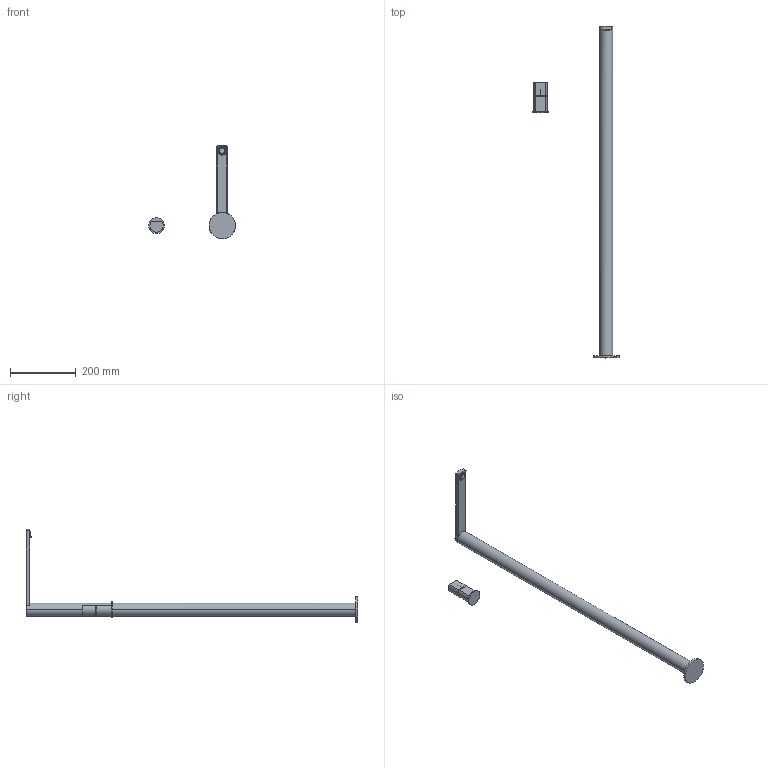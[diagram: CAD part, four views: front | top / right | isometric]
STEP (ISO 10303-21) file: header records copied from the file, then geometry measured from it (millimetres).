
FILE_DESCRIPTION((''),'2;1');
FILE_NAME('89069B21_SW0001','2020-06-18T17:02:05',('carloff'),(''),'CREO PARAMETRIC BY PTC INC, 2018100','CREO PARAMETRIC BY PTC INC, 2018100','');
FILE_SCHEMA(('CONFIG_CONTROL_DESIGN'));
Products named in the file (1): 89069B21_SW0001
Bounding box: 264 x 1010 x 284.85 mm (x, y, z)
Volume: 336999.7 mm3; surface area: 316168.8 mm2
Topology: 2 solids, 2 shells, 3057 faces, 8000 edges, 5329 vertices
Faces by surface type: plane 2496, cone 423, cylinder 116, bspline 10, sphere 8, torus 4
Entity records: 110474 total; most frequent: CARTESIAN_POINT 44544, ORIENTED_EDGE 15996, DIRECTION 9452, EDGE_CURVE 7998, VERTEX_POINT 5329, B_SPLINE_CURVE_WITH_KNOTS 4942, EDGE_LOOP 3447, AXIS2_PLACEMENT_3D 3349
